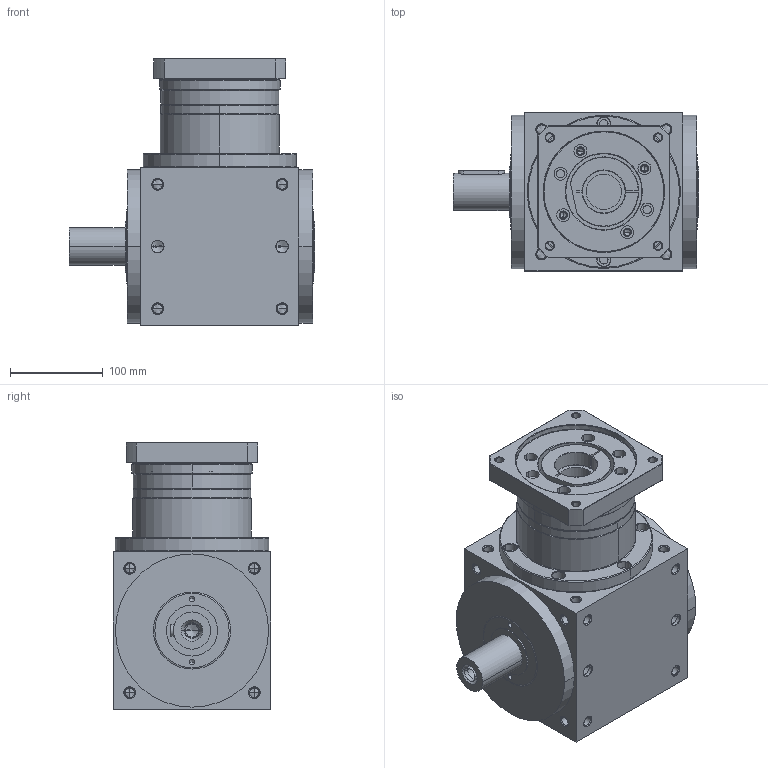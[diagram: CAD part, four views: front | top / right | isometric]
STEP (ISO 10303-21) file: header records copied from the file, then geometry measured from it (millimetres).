
FILE_DESCRIPTION((''),'2;1');
FILE_NAME('ATB170FL11-P0403500401_ASM','2014-07-28T',('d01707'),(''),'PRO/ENGINEER BY PARAMETRIC TECHNOLOGY CORPORATION, 2008410','PRO/ENGINEER BY PARAMETRIC TECHNOLOGY CORPORATION, 2008410','');
FILE_SCHEMA(('CONFIG_CONTROL_DESIGN'));
Length unit declared in the file: millimetre
Products named in the file (6): ATB170FL1-A; P1820700001; P1502700001; P0501500001; P0403500401; ATB170FL11-P0403500401_ASM
Assembly tree (5 placements, depth 2):
  ATB170FL11-P0403500401_ASM
    ATB170FL1-A
    P1820700001
    P1502700001
    P0501500001
    P0403500401
Bounding box: 264 x 170 x 287.5 mm (x, y, z)
Volume: 6570918.7 mm3; surface area: 462965.9 mm2
Topology: 5 solids, 48 shells, 829 faces, 2066 edges, 1245 vertices
Faces by surface type: cylinder 371, cone 302, plane 122, torus 34
Entity records: 25345 total; most frequent: CARTESIAN_POINT 5400, DIRECTION 4496, ORIENTED_EDGE 3780, EDGE_CURVE 1976, AXIS2_PLACEMENT_3D 1889, VERTEX_POINT 1245, CIRCLE 1039, EDGE_LOOP 1005
